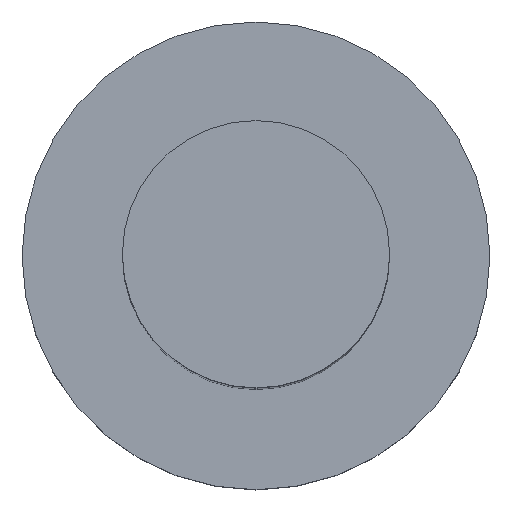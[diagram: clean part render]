
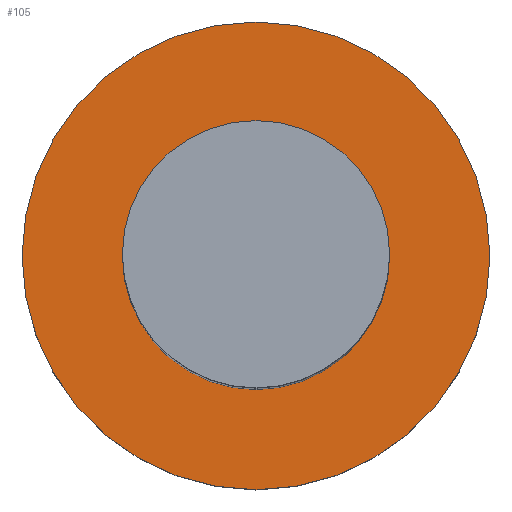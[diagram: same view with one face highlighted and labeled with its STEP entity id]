
A CAD part, top view. The second image highlights one B-rep face of the part: STEP entity #105.
In plain terms, the highlighted planar face has unit normal (0, 0, 1).
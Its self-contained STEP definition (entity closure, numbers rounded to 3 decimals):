
#21 = EDGE_CURVE('',#22,#22,#24,.T.);
#22 = VERTEX_POINT('',#23);
#23 = CARTESIAN_POINT('',(3.5,0.,1.8));
#24 = SURFACE_CURVE('',#25,(#30,#42),.PCURVE_S1.);
#25 = CIRCLE('',#26,3.5);
#26 = AXIS2_PLACEMENT_3D('',#27,#28,#29);
#27 = CARTESIAN_POINT('',(0.,0.,1.8));
#28 = DIRECTION('',(0.,0.,1.));
#29 = DIRECTION('',(1.,0.,-0.));
#30 = PCURVE('',#31,#36);
#31 = CYLINDRICAL_SURFACE('',#32,3.5);
#32 = AXIS2_PLACEMENT_3D('',#33,#34,#35);
#33 = CARTESIAN_POINT('',(0.,0.,0.));
#34 = DIRECTION('',(0.,0.,1.));
#35 = DIRECTION('',(1.,0.,-0.));
#36 = DEFINITIONAL_REPRESENTATION('',(#37),#41);
#37 = LINE('',#38,#39);
#38 = CARTESIAN_POINT('',(0.,1.8));
#39 = VECTOR('',#40,1.);
#40 = DIRECTION('',(1.,0.));
#41 = ( GEOMETRIC_REPRESENTATION_CONTEXT(2) 
PARAMETRIC_REPRESENTATION_CONTEXT() REPRESENTATION_CONTEXT('2D SPACE',''
  ) );
#42 = PCURVE('',#43,#48);
#43 = PLANE('',#44);
#44 = AXIS2_PLACEMENT_3D('',#45,#46,#47);
#45 = CARTESIAN_POINT('',(0.,0.,1.8));
#46 = DIRECTION('',(0.,0.,1.));
#47 = DIRECTION('',(1.,0.,-0.));
#48 = DEFINITIONAL_REPRESENTATION('',(#49),#53);
#49 = CIRCLE('',#50,3.5);
#50 = AXIS2_PLACEMENT_2D('',#51,#52);
#51 = CARTESIAN_POINT('',(0.,0.));
#52 = DIRECTION('',(1.,0.));
#53 = ( GEOMETRIC_REPRESENTATION_CONTEXT(2) 
PARAMETRIC_REPRESENTATION_CONTEXT() REPRESENTATION_CONTEXT('2D SPACE',''
  ) );
#105 = ADVANCED_FACE('',(#106,#109),#43,.T.);
#106 = FACE_BOUND('',#107,.T.);
#107 = EDGE_LOOP('',(#108));
#108 = ORIENTED_EDGE('',*,*,#21,.T.);
#109 = FACE_BOUND('',#110,.T.);
#110 = EDGE_LOOP('',(#111));
#111 = ORIENTED_EDGE('',*,*,#112,.F.);
#112 = EDGE_CURVE('',#113,#113,#115,.T.);
#113 = VERTEX_POINT('',#114);
#114 = CARTESIAN_POINT('',(2.,0.,1.8));
#115 = SURFACE_CURVE('',#116,(#121,#128),.PCURVE_S1.);
#116 = CIRCLE('',#117,2.);
#117 = AXIS2_PLACEMENT_3D('',#118,#119,#120);
#118 = CARTESIAN_POINT('',(0.,0.,1.8));
#119 = DIRECTION('',(0.,0.,1.));
#120 = DIRECTION('',(1.,0.,-0.));
#121 = PCURVE('',#43,#122);
#122 = DEFINITIONAL_REPRESENTATION('',(#123),#127);
#123 = CIRCLE('',#124,2.);
#124 = AXIS2_PLACEMENT_2D('',#125,#126);
#125 = CARTESIAN_POINT('',(0.,0.));
#126 = DIRECTION('',(1.,0.));
#127 = ( GEOMETRIC_REPRESENTATION_CONTEXT(2) 
PARAMETRIC_REPRESENTATION_CONTEXT() REPRESENTATION_CONTEXT('2D SPACE',''
  ) );
#128 = PCURVE('',#129,#134);
#129 = CYLINDRICAL_SURFACE('',#130,2.);
#130 = AXIS2_PLACEMENT_3D('',#131,#132,#133);
#131 = CARTESIAN_POINT('',(0.,0.,1.8));
#132 = DIRECTION('',(0.,0.,1.));
#133 = DIRECTION('',(1.,0.,-0.));
#134 = DEFINITIONAL_REPRESENTATION('',(#135),#139);
#135 = LINE('',#136,#137);
#136 = CARTESIAN_POINT('',(0.,0.));
#137 = VECTOR('',#138,1.);
#138 = DIRECTION('',(1.,0.));
#139 = ( GEOMETRIC_REPRESENTATION_CONTEXT(2) 
PARAMETRIC_REPRESENTATION_CONTEXT() REPRESENTATION_CONTEXT('2D SPACE',''
  ) );
